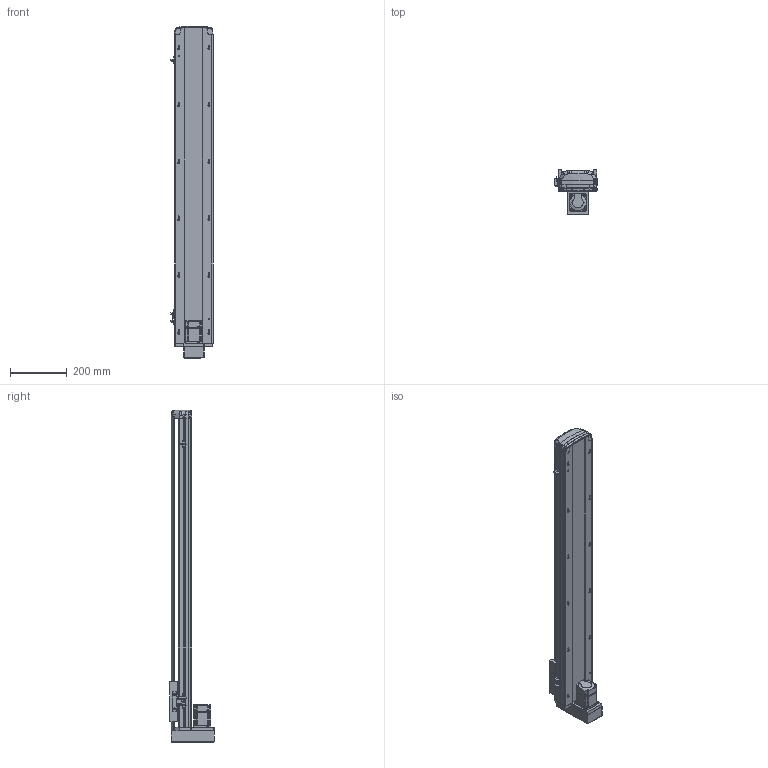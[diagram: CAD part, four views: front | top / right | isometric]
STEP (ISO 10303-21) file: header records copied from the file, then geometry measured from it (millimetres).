
FILE_DESCRIPTION (( 'STEP AP214' ), '1' );
FILE_NAME ('RTH14-XX-900-M-M20-C4.STEP', '2025-10-25T02:51:56', ( 'Microsoft' ), ( 'Microsoft' ), 'SwSTEP 2.0', 'SolidWorks 2018', '' );
FILE_SCHEMA (( 'AUTOMOTIVE_DESIGN' ));
Length unit declared in the file: millimetre
Products named in the file (10): N_RTH14-R-004-SFSR16賑釱^RTH14-XX-XX-M-M20-C4; N_MSMD022P1AA_200W^RTH14-XX-XX-M-M20-C4; N_RTH14-GY-001P^RTH14-XX-XX-M-M20-C4; N_OMRON EE-SX672 传感器^RTH14-XX-XX-M-M20-C4; N_RTH13-M-018裔赽^RTH14-XX-XX-M-M20-C4; N_RTH14-M-011P菁釱^RTH14-XX-XX-M-M20-C4; N_RTH13-L-012感应片（外置）^RTH14-XX-XX-M-M20-C4; N_RTH14-M-007P奻裔^RTH14-XX-XX-M-M20-C4; N_RTH13-M-008萇儂啣狟殏^RTH14-XX-XX-M-M20-C4; RTH14-XX-900-M-M20-C4
Assembly tree (11 placements, depth 2):
  RTH14-XX-900-M-M20-C4
    N_RTH14-M-011P菁釱^RTH14-XX-XX-M-M20-C4
    N_RTH14-M-007P奻裔^RTH14-XX-XX-M-M20-C4
    N_MSMD022P1AA_200W^RTH14-XX-XX-M-M20-C4
    N_RTH13-M-008萇儂啣狟殏^RTH14-XX-XX-M-M20-C4
    N_RTH13-M-018裔赽^RTH14-XX-XX-M-M20-C4
    N_RTH13-L-012感应片（外置）^RTH14-XX-XX-M-M20-C4
    N_OMRON EE-SX672 传感器^RTH14-XX-XX-M-M20-C4  x3
    N_RTH14-R-004-SFSR16賑釱^RTH14-XX-XX-M-M20-C4
    N_RTH14-GY-001P^RTH14-XX-XX-M-M20-C4
Bounding box: 148.5 x 156.5 x 1167.49 mm (x, y, z)
Volume: 5047937 mm3; surface area: 1154489.2 mm2
Topology: 11 solids, 11 shells, 1889 faces, 5282 edges, 3460 vertices
Faces by surface type: plane 997, cylinder 498, bspline 345, cone 45, torus 4
Entity records: 57764 total; most frequent: CARTESIAN_POINT 23173, ORIENTED_EDGE 7632, DIRECTION 6149, EDGE_CURVE 3816, VERTEX_POINT 2496, LINE 2187, VECTOR 2187, AXIS2_PLACEMENT_3D 1981
